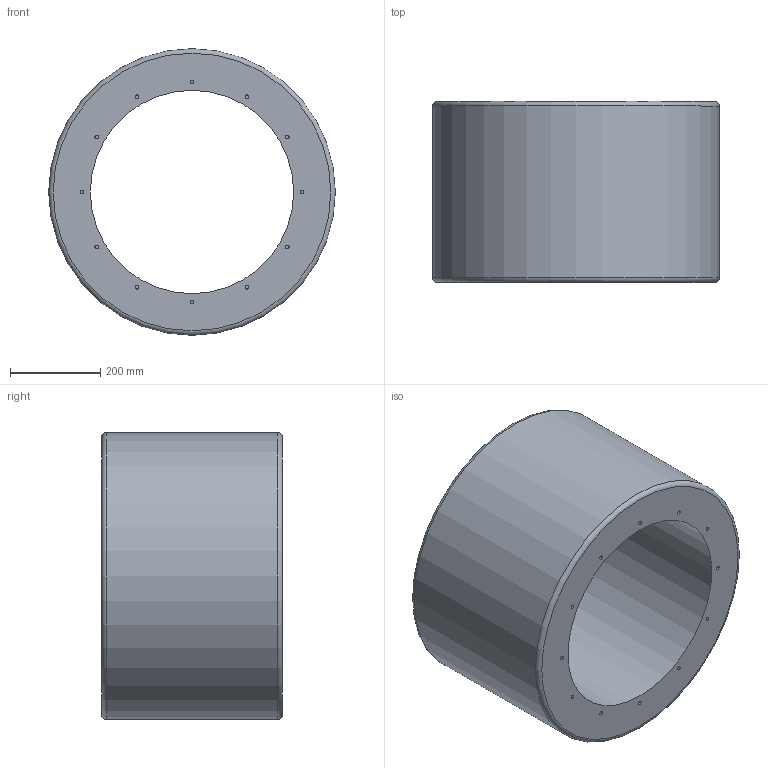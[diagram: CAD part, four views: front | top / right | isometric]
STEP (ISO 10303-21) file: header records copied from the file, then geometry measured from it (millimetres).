
FILE_DESCRIPTION(/* description */ (''),/* implementation_level */ '2;1');
FILE_NAME(/* name */ 'Z:\Output\RSD_450-400-08752-002.stp',/* time_stamp */ '2017-09-20T12:04:09+02:00',/* author */ ('Engineering1'),/* organization */ (''),/* preprocessor_version */ 'ST-DEVELOPER v16.5',/* originating_system */ 'Autodesk Inventor 2017',/* authorisation */ '');
FILE_SCHEMA (('AUTOMOTIVE_DESIGN { 1 0 10303 214 3 1 1 }'));
Length unit declared in the file: millimetre
Products named in the file (1): RSD-1
Bounding box: 634 x 400 x 634 mm (x, y, z)
Volume: 62564001.6 mm3; surface area: 1664344.7 mm2
Topology: 1 solids, 1 shells, 54 faces, 82 edges, 54 vertices
Faces by surface type: cylinder 26, plane 26, torus 2
Full cylindrical faces by diameter (mm): 8 x24, 450 x1, 634 x1
Entity records: 1126 total; most frequent: DIRECTION 218, CARTESIAN_POINT 163, AXIS2_PLACEMENT_3D 109, EDGE_LOOP 108, ORIENTED_EDGE 108, FACE_BOUND 54, FACE_OUTER_BOUND 54, CIRCLE 54
